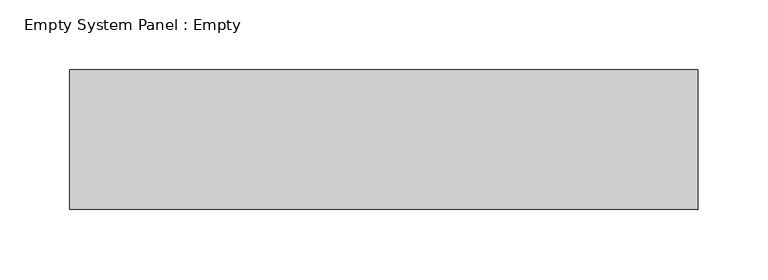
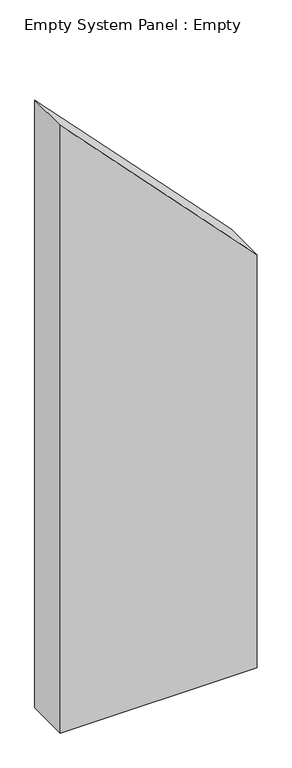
"""IFC4 building model written with IfcOpenShell, lengths in millimetres: plate geometry, Empty System Panel : Empty."""

import ifcopenshell
import ifcopenshell.guid

model = None  # the IFC model being written
_history = None  # IfcOwnerHistory: only IFC2X3 demands one
_inside = {}  # id of a spatial element -> (the spatial element, [elements in it])
_under = {}  # id of a project, library or spatial element -> (it, [spatial elements below it])
_declared = {}  # id of a project -> (the project, [libraries it declares])
_typed = {}  # id of a type object -> (the type object, [elements of that type])
_made_of = {}  # id of a material, layer set ... -> (it, [elements and type objects made of it])


def new_model(schema):
    """Start an empty IFC model of exactly this schema.

    Asked for "IFC4X3", IfcOpenShell would pick the latest addendum, in which some entities
    have other attributes; the version numbers below select the first issue.
    IFC2X3 requires an IfcOwnerHistory on every rooted entity: one is made here for all.
    """
    global model, _history
    if schema == "IFC4X3":
        model = ifcopenshell.file(schema_version=(4, 3, 0, 0))
    else:
        model = ifcopenshell.file(schema=schema)
    _inside.clear()
    _under.clear()
    _declared.clear()
    _typed.clear()
    _made_of.clear()
    _history = None
    if model.schema == "IFC2X3":
        org = make("IfcOrganization", Name="unknown")
        user = make(
            "IfcPersonAndOrganization",
            ThePerson=make("IfcPerson", FamilyName="unknown"),
            TheOrganization=org,
        )
        app = make(
            "IfcApplication",
            ApplicationDeveloper=org,
            Version="unknown",
            ApplicationFullName="unknown",
            ApplicationIdentifier="unknown",
        )
        _history = make(
            "IfcOwnerHistory",
            OwningUser=user,
            OwningApplication=app,
            ChangeAction="ADDED",
            CreationDate=0,
        )
    return model


def make(cls, **values):
    """One entity of the class cls with the attributes given. An attribute that is None is left unset."""
    return model.create_entity(
        cls, **{name: value for name, value in values.items() if value is not None}
    )


def rooted(cls, **values):
    """An entity with a GlobalId (a new one), such as an element, a storey or a relation."""
    return make(cls, GlobalId=ifcopenshell.guid.new(), OwnerHistory=_history, **values)


def si_unit(unit_type, name, prefix=None):
    """IfcSIUnit, for example si_unit("LENGTHUNIT", "METRE", prefix="MILLI")."""
    return make("IfcSIUnit", UnitType=unit_type, Prefix=prefix, Name=name)


def assignment(units):
    """IfcUnitAssignment: the units of a project."""
    return None if units is None else make("IfcUnitAssignment", Units=units)


def point(xyz):
    """IfcCartesianPoint."""
    return None if xyz is None else make("IfcCartesianPoint", Coordinates=xyz)


def direction(xyz):
    """IfcDirection."""
    return None if xyz is None else make("IfcDirection", DirectionRatios=xyz)


def frame(location, z_axis=None, x_axis=None):
    """IfcAxis2Placement3D, a coordinate frame: its origin and axes. An axis left out is left unset."""
    return make(
        "IfcAxis2Placement3D",
        Location=point(location),
        Axis=direction(z_axis),
        RefDirection=direction(x_axis),
    )


def origin():
    """The frame at (0, 0, 0) with its axes left unset."""
    return frame((0.0, 0.0, 0.0))


def place(relative_to, where):
    """IfcLocalPlacement: puts the frame where relative to a parent placement (None: the world)."""
    return make(
        "IfcLocalPlacement", PlacementRelTo=relative_to, RelativePlacement=where
    )


def context(
    kind, dimensions, precision=None, world=None, true_north=None, identifier=None
):
    """IfcGeometricRepresentationContext, for example the 3D "Model" context."""
    return make(
        "IfcGeometricRepresentationContext",
        ContextIdentifier=identifier,
        ContextType=kind,
        CoordinateSpaceDimension=dimensions,
        Precision=precision,
        WorldCoordinateSystem=world,
        TrueNorth=true_north,
    )


def project(units=None, contexts=None):
    """IfcProject with its units and contexts."""
    return rooted(
        "IfcProject",
        Name="project",
        RepresentationContexts=contexts,
        UnitsInContext=assignment(units),
    )


def spatial(cls, under=None, at=None, **own):
    """A site, building, storey or space (cls), placed at a placement, below another one or the project."""
    s = rooted(cls, ObjectPlacement=at, **own)
    if under is not None:
        _under.setdefault(under.id(), (under, []))[1].append(s)
    return s


def polyline(points):
    """IfcPolyline through the points."""
    return make("IfcPolyline", Points=[point(p) for p in points])


def outline(outer, holes=None, kind="AREA"):
    """IfcArbitraryClosedProfileDef: a profile drawn as a closed curve; with holes, ...WithVoids."""
    if holes is None:
        return make("IfcArbitraryClosedProfileDef", ProfileType=kind, OuterCurve=outer)
    return make(
        "IfcArbitraryProfileDefWithVoids",
        ProfileType=kind,
        OuterCurve=outer,
        InnerCurves=holes,
    )


def extrude(swept, where, along, depth):
    """IfcExtrudedAreaSolid: the profile swept, set in the frame where, extruded along a direction by depth."""
    return make(
        "IfcExtrudedAreaSolid",
        SweptArea=swept,
        Position=where,
        ExtrudedDirection=direction(along),
        Depth=depth,
    )


def shape(context_of_items, identifier, shape_type, items):
    """IfcShapeRepresentation: the items that make up one representation, for example the "Body"."""
    return make(
        "IfcShapeRepresentation",
        ContextOfItems=context_of_items,
        RepresentationIdentifier=identifier,
        RepresentationType=shape_type,
        Items=items,
    )


def source(mapping_origin, context_of_items, identifier, shape_type, items):
    """IfcRepresentationMap: a shape defined once, which mapped items show again and again."""
    return make(
        "IfcRepresentationMap",
        MappingOrigin=mapping_origin,
        MappedRepresentation=shape(context_of_items, identifier, shape_type, items),
    )


def transform(
    local_origin,
    x_axis=None,
    y_axis=None,
    z_axis=None,
    scale=None,
    scale2=None,
    scale3=None,
    uniform=True,
):
    """IfcCartesianTransformationOperator3D, or its non-uniform kind. x_axis, y_axis, z_axis: its Axis1, 2, 3."""
    if uniform:
        return make(
            "IfcCartesianTransformationOperator3D",
            Axis1=direction(x_axis),
            Axis2=direction(y_axis),
            LocalOrigin=point(local_origin),
            Scale=scale,
            Axis3=direction(z_axis),
        )
    return make(
        "IfcCartesianTransformationOperator3DnonUniform",
        Axis1=direction(x_axis),
        Axis2=direction(y_axis),
        LocalOrigin=point(local_origin),
        Scale=scale,
        Axis3=direction(z_axis),
        Scale2=scale2,
        Scale3=scale3,
    )


def mapped(mapping_source, mapping_target):
    """IfcMappedItem: shows the shape of a source again, moved by a transform."""
    return make(
        "IfcMappedItem", MappingSource=mapping_source, MappingTarget=mapping_target
    )


def made_of(thing, what):
    """Note that an element or type object is made of a material, layer set ...; save() writes the relation."""
    if what is not None:
        _made_of.setdefault(what.id(), (what, []))[1].append(thing)
    return thing


def element(
    cls,
    number,
    at=None,
    inside=None,
    cuts=None,
    type_object=None,
    material=None,
    context=None,
    identifier="Body",
    shape_type=None,
    held_by="IfcProductDefinitionShape",
    body=None,
    shapes=None,
    **own,
):
    """One element of the class cls, such as IfcWall. Its Tag is "e" and its number.

    at: its placement. inside: the storey or other place that contains it. cuts: it is an
    opening in that element (IfcRelVoidsElement). A single representation is given by context,
    identifier, shape_type and body (its items); several are given by shapes. held_by: the class
    of the entity that holds the representations. save() writes the other relations.
    """
    e = rooted(cls, Tag="e%d" % number, ObjectPlacement=at, **own)
    if body is not None:
        shapes = [shape(context, identifier, shape_type, body)]
    if shapes is not None:
        e.Representation = make(held_by, Representations=shapes)
    if inside is not None:
        _inside.setdefault(inside.id(), (inside, []))[1].append(e)
    if cuts is not None:
        rooted(
            "IfcRelVoidsElement", RelatingBuildingElement=cuts, RelatedOpeningElement=e
        )
    if type_object is not None:
        _typed.setdefault(type_object.id(), (type_object, []))[1].append(e)
    return made_of(e, material)


def aggregate(whole, parts):
    """IfcRelAggregates: a whole, such as a stair, and the parts it consists of."""
    return rooted("IfcRelAggregates", RelatingObject=whole, RelatedObjects=parts)


def save(model, path):
    """Write the relations noted so far, then the file.

    IfcRelAggregates (storeys below a building ...), IfcRelContainedInSpatialStructure (elements
    in a storey), IfcRelDefinesByType, IfcRelAssociatesMaterial and IfcRelDeclares: one each for
    every whole, place, type object, material and project.
    """
    for whole, parts in _under.values():
        aggregate(whole, parts)
    for where, things in _inside.values():
        rooted(
            "IfcRelContainedInSpatialStructure",
            RelatedElements=things,
            RelatingStructure=where,
        )
    for kind, things in _typed.values():
        rooted("IfcRelDefinesByType", RelatedObjects=things, RelatingType=kind)
    for what, things in _made_of.values():
        rooted("IfcRelAssociatesMaterial", RelatedObjects=things, RelatingMaterial=what)
    for by, libraries in _declared.values():
        rooted("IfcRelDeclares", RelatingContext=by, RelatedDefinitions=libraries)
    model.write(path)


def empty_system_panel_empty_f5961f3d(model_context):
    return source(origin(), model_context, "Body", "SweptSolid", [
        extrude(outline(polyline([(0.0, -225.0), (0.0, 225.0), (997.8472559, 225.0), (1467.6610487, -225.0), (0.0, -225.0)])), frame((0.0, -50.0, 0.0), z_axis=(0.0, 1.0, 0.0), x_axis=(0.0, 0.0, 1.0)), (0.0, 0.0, 1.0), 100.0),
    ])


if __name__ == "__main__":
    model = new_model("IFC4")
    model_context = context("Model", 3, world=origin())
    ifc_project = project(units=[si_unit("LENGTHUNIT", "METRE", prefix="MILLI")], contexts=[model_context])
    site = spatial("IfcSite", under=ifc_project)
    building = spatial("IfcBuilding", under=site)
    placement = place(None, origin())
    empty_system_panel_empty_shape = empty_system_panel_empty_f5961f3d(model_context)
    element("IfcPlate", 1, ObjectType="Empty System Panel : Empty", at=placement, inside=building, context=model_context, shape_type="MappedRepresentation", body=[
        mapped(empty_system_panel_empty_shape, transform((0.0, 0.0, 0.0), x_axis=(1.0, 0.0, 0.0), y_axis=(0.0, 1.0, 0.0), z_axis=(0.0, 0.0, 1.0))),
    ])
    save(model, "model.ifc")
